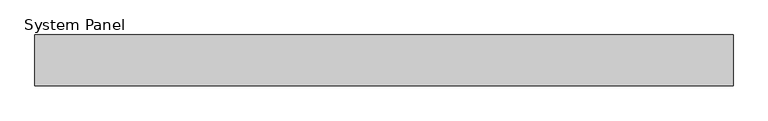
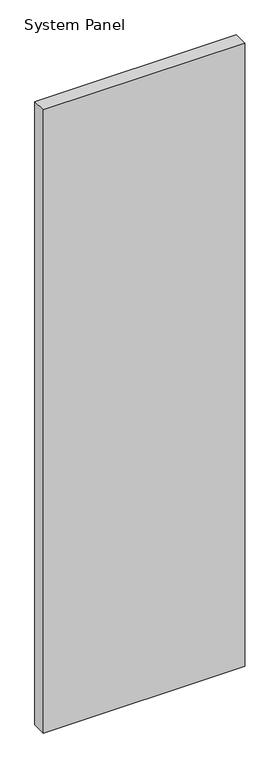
"""IFC4 building model written with IfcOpenShell, lengths in millimetres: plate geometry, System Panel : Inspire 80mm Vertical - Plain RHEA-PIR."""

import ifcopenshell
import ifcopenshell.guid

model = None  # the IFC model being written
_history = None  # IfcOwnerHistory: only IFC2X3 demands one
_inside = {}  # id of a spatial element -> (the spatial element, [elements in it])
_under = {}  # id of a project, library or spatial element -> (it, [spatial elements below it])
_declared = {}  # id of a project -> (the project, [libraries it declares])
_typed = {}  # id of a type object -> (the type object, [elements of that type])
_made_of = {}  # id of a material, layer set ... -> (it, [elements and type objects made of it])


def new_model(schema):
    """Start an empty IFC model of exactly this schema.

    Asked for "IFC4X3", IfcOpenShell would pick the latest addendum, in which some entities
    have other attributes; the version numbers below select the first issue.
    IFC2X3 requires an IfcOwnerHistory on every rooted entity: one is made here for all.
    """
    global model, _history
    if schema == "IFC4X3":
        model = ifcopenshell.file(schema_version=(4, 3, 0, 0))
    else:
        model = ifcopenshell.file(schema=schema)
    _inside.clear()
    _under.clear()
    _declared.clear()
    _typed.clear()
    _made_of.clear()
    _history = None
    if model.schema == "IFC2X3":
        org = make("IfcOrganization", Name="unknown")
        user = make(
            "IfcPersonAndOrganization",
            ThePerson=make("IfcPerson", FamilyName="unknown"),
            TheOrganization=org,
        )
        app = make(
            "IfcApplication",
            ApplicationDeveloper=org,
            Version="unknown",
            ApplicationFullName="unknown",
            ApplicationIdentifier="unknown",
        )
        _history = make(
            "IfcOwnerHistory",
            OwningUser=user,
            OwningApplication=app,
            ChangeAction="ADDED",
            CreationDate=0,
        )
    return model


def make(cls, **values):
    """One entity of the class cls with the attributes given. An attribute that is None is left unset."""
    return model.create_entity(
        cls, **{name: value for name, value in values.items() if value is not None}
    )


def rooted(cls, **values):
    """An entity with a GlobalId (a new one), such as an element, a storey or a relation."""
    return make(cls, GlobalId=ifcopenshell.guid.new(), OwnerHistory=_history, **values)


def si_unit(unit_type, name, prefix=None):
    """IfcSIUnit, for example si_unit("LENGTHUNIT", "METRE", prefix="MILLI")."""
    return make("IfcSIUnit", UnitType=unit_type, Prefix=prefix, Name=name)


def assignment(units):
    """IfcUnitAssignment: the units of a project."""
    return None if units is None else make("IfcUnitAssignment", Units=units)


def point(xyz):
    """IfcCartesianPoint."""
    return None if xyz is None else make("IfcCartesianPoint", Coordinates=xyz)


def direction(xyz):
    """IfcDirection."""
    return None if xyz is None else make("IfcDirection", DirectionRatios=xyz)


def frame(location, z_axis=None, x_axis=None):
    """IfcAxis2Placement3D, a coordinate frame: its origin and axes. An axis left out is left unset."""
    return make(
        "IfcAxis2Placement3D",
        Location=point(location),
        Axis=direction(z_axis),
        RefDirection=direction(x_axis),
    )


def origin():
    """The frame at (0, 0, 0) with its axes left unset."""
    return frame((0.0, 0.0, 0.0))


def origin_with_axes():
    """The frame at (0, 0, 0) with the z axis (0, 0, 1) and the x axis (1, 0, 0) written out."""
    return frame((0.0, 0.0, 0.0), z_axis=(0.0, 0.0, 1.0), x_axis=(1.0, 0.0, 0.0))


def place(relative_to, where):
    """IfcLocalPlacement: puts the frame where relative to a parent placement (None: the world)."""
    return make(
        "IfcLocalPlacement", PlacementRelTo=relative_to, RelativePlacement=where
    )


def context(
    kind, dimensions, precision=None, world=None, true_north=None, identifier=None
):
    """IfcGeometricRepresentationContext, for example the 3D "Model" context."""
    return make(
        "IfcGeometricRepresentationContext",
        ContextIdentifier=identifier,
        ContextType=kind,
        CoordinateSpaceDimension=dimensions,
        Precision=precision,
        WorldCoordinateSystem=world,
        TrueNorth=true_north,
    )


def project(units=None, contexts=None):
    """IfcProject with its units and contexts."""
    return rooted(
        "IfcProject",
        Name="project",
        RepresentationContexts=contexts,
        UnitsInContext=assignment(units),
    )


def spatial(cls, under=None, at=None, **own):
    """A site, building, storey or space (cls), placed at a placement, below another one or the project."""
    s = rooted(cls, ObjectPlacement=at, **own)
    if under is not None:
        _under.setdefault(under.id(), (under, []))[1].append(s)
    return s


def polyline(points):
    """IfcPolyline through the points."""
    return make("IfcPolyline", Points=[point(p) for p in points])


def outline(outer, holes=None, kind="AREA"):
    """IfcArbitraryClosedProfileDef: a profile drawn as a closed curve; with holes, ...WithVoids."""
    if holes is None:
        return make("IfcArbitraryClosedProfileDef", ProfileType=kind, OuterCurve=outer)
    return make(
        "IfcArbitraryProfileDefWithVoids",
        ProfileType=kind,
        OuterCurve=outer,
        InnerCurves=holes,
    )


def extrude(swept, where, along, depth):
    """IfcExtrudedAreaSolid: the profile swept, set in the frame where, extruded along a direction by depth."""
    return make(
        "IfcExtrudedAreaSolid",
        SweptArea=swept,
        Position=where,
        ExtrudedDirection=direction(along),
        Depth=depth,
    )


def shape(context_of_items, identifier, shape_type, items):
    """IfcShapeRepresentation: the items that make up one representation, for example the "Body"."""
    return make(
        "IfcShapeRepresentation",
        ContextOfItems=context_of_items,
        RepresentationIdentifier=identifier,
        RepresentationType=shape_type,
        Items=items,
    )


def source(mapping_origin, context_of_items, identifier, shape_type, items):
    """IfcRepresentationMap: a shape defined once, which mapped items show again and again."""
    return make(
        "IfcRepresentationMap",
        MappingOrigin=mapping_origin,
        MappedRepresentation=shape(context_of_items, identifier, shape_type, items),
    )


def transform(
    local_origin,
    x_axis=None,
    y_axis=None,
    z_axis=None,
    scale=None,
    scale2=None,
    scale3=None,
    uniform=True,
):
    """IfcCartesianTransformationOperator3D, or its non-uniform kind. x_axis, y_axis, z_axis: its Axis1, 2, 3."""
    if uniform:
        return make(
            "IfcCartesianTransformationOperator3D",
            Axis1=direction(x_axis),
            Axis2=direction(y_axis),
            LocalOrigin=point(local_origin),
            Scale=scale,
            Axis3=direction(z_axis),
        )
    return make(
        "IfcCartesianTransformationOperator3DnonUniform",
        Axis1=direction(x_axis),
        Axis2=direction(y_axis),
        LocalOrigin=point(local_origin),
        Scale=scale,
        Axis3=direction(z_axis),
        Scale2=scale2,
        Scale3=scale3,
    )


def mapped(mapping_source, mapping_target):
    """IfcMappedItem: shows the shape of a source again, moved by a transform."""
    return make(
        "IfcMappedItem", MappingSource=mapping_source, MappingTarget=mapping_target
    )


def made_of(thing, what):
    """Note that an element or type object is made of a material, layer set ...; save() writes the relation."""
    if what is not None:
        _made_of.setdefault(what.id(), (what, []))[1].append(thing)
    return thing


def element(
    cls,
    number,
    at=None,
    inside=None,
    cuts=None,
    type_object=None,
    material=None,
    context=None,
    identifier="Body",
    shape_type=None,
    held_by="IfcProductDefinitionShape",
    body=None,
    shapes=None,
    **own,
):
    """One element of the class cls, such as IfcWall. Its Tag is "e" and its number.

    at: its placement. inside: the storey or other place that contains it. cuts: it is an
    opening in that element (IfcRelVoidsElement). A single representation is given by context,
    identifier, shape_type and body (its items); several are given by shapes. held_by: the class
    of the entity that holds the representations. save() writes the other relations.
    """
    e = rooted(cls, Tag="e%d" % number, ObjectPlacement=at, **own)
    if body is not None:
        shapes = [shape(context, identifier, shape_type, body)]
    if shapes is not None:
        e.Representation = make(held_by, Representations=shapes)
    if inside is not None:
        _inside.setdefault(inside.id(), (inside, []))[1].append(e)
    if cuts is not None:
        rooted(
            "IfcRelVoidsElement", RelatingBuildingElement=cuts, RelatedOpeningElement=e
        )
    if type_object is not None:
        _typed.setdefault(type_object.id(), (type_object, []))[1].append(e)
    return made_of(e, material)


def aggregate(whole, parts):
    """IfcRelAggregates: a whole, such as a stair, and the parts it consists of."""
    return rooted("IfcRelAggregates", RelatingObject=whole, RelatedObjects=parts)


def save(model, path):
    """Write the relations noted so far, then the file.

    IfcRelAggregates (storeys below a building ...), IfcRelContainedInSpatialStructure (elements
    in a storey), IfcRelDefinesByType, IfcRelAssociatesMaterial and IfcRelDeclares: one each for
    every whole, place, type object, material and project.
    """
    for whole, parts in _under.values():
        aggregate(whole, parts)
    for where, things in _inside.values():
        rooted(
            "IfcRelContainedInSpatialStructure",
            RelatedElements=things,
            RelatingStructure=where,
        )
    for kind, things in _typed.values():
        rooted("IfcRelDefinesByType", RelatedObjects=things, RelatingType=kind)
    for what, things in _made_of.values():
        rooted("IfcRelAssociatesMaterial", RelatedObjects=things, RelatingMaterial=what)
    for by, libraries in _declared.values():
        rooted("IfcRelDeclares", RelatingContext=by, RelatedDefinitions=libraries)
    model.write(path)


def system_panel_2999ba9c(model_context):
    return source(origin(), model_context, "Body", "SweptSolid", [
        extrude(outline(polyline([(550.0, 0.0), (-550.0, 0.0), (-550.0, 80.0), (550.0, 80.0), (550.0, 0.0)])), origin_with_axes(), (0.0, 0.0, 1.0), 3600.0),
    ])


if __name__ == "__main__":
    model = new_model("IFC4")
    model_context = context("Model", 3, world=origin())
    ifc_project = project(units=[si_unit("LENGTHUNIT", "METRE", prefix="MILLI")], contexts=[model_context])
    site = spatial("IfcSite", under=ifc_project)
    building = spatial("IfcBuilding", under=site)
    placement = place(None, origin())
    system_panel_shape = system_panel_2999ba9c(model_context)
    element("IfcPlate", 1, ObjectType="System Panel : Inspire 80mm Vertical - Plain RHEA-PIR", at=placement, inside=building, context=model_context, shape_type="MappedRepresentation", body=[
        mapped(system_panel_shape, transform((0.0, 0.0, 0.0), x_axis=(1.0, 0.0, 0.0), y_axis=(0.0, 1.0, 0.0), z_axis=(0.0, 0.0, 1.0))),
    ])
    save(model, "model.ifc")
